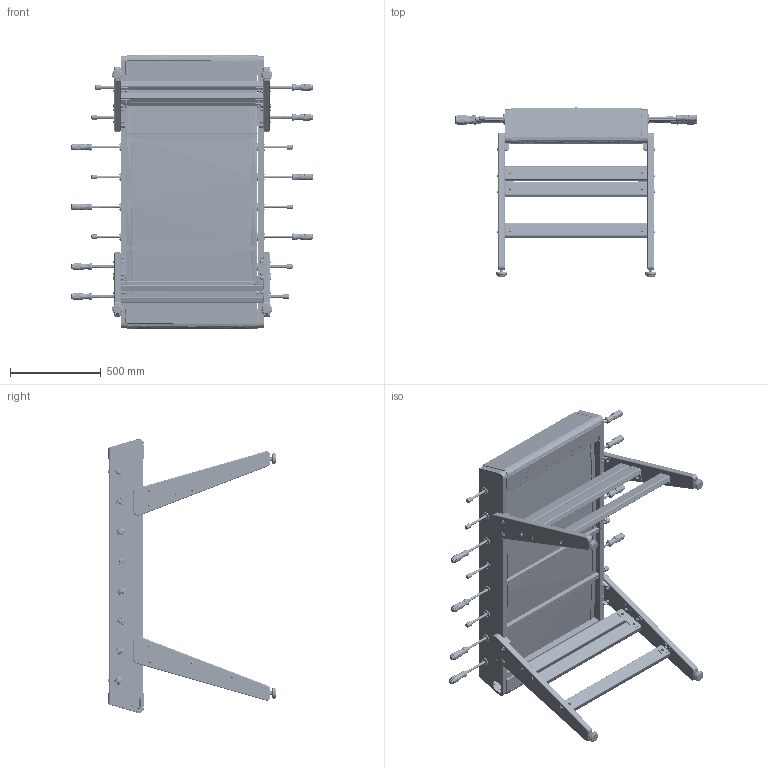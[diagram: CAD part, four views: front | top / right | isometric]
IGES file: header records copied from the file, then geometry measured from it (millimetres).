
Start section: SolidWorks IGES file using analytic representation for surfaces
Global section: file name: C:\Users\ingenieria\Desktop\RS3W-2-C1.IGS; native system: SolidWorks 2020; preprocessor: SolidWorks 2020; author: ingenieria; date: 210326.114554; units: millimetre
Bounding box: 1338.62 x 931.26 x 1511.91 mm (x, y, z)
Surface area: 12454512.7 mm2 (no closed solid volume)
Topology: 0 solids, 0 shells, 20382 faces, 230271 edges, 229850 vertices
Faces by surface type: bspline 11052, revolution 9330
